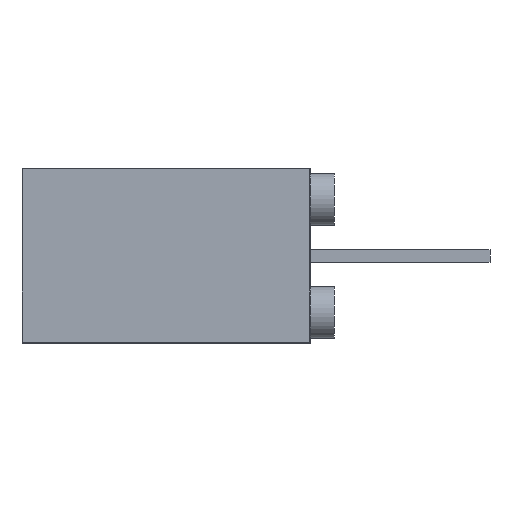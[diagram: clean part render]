
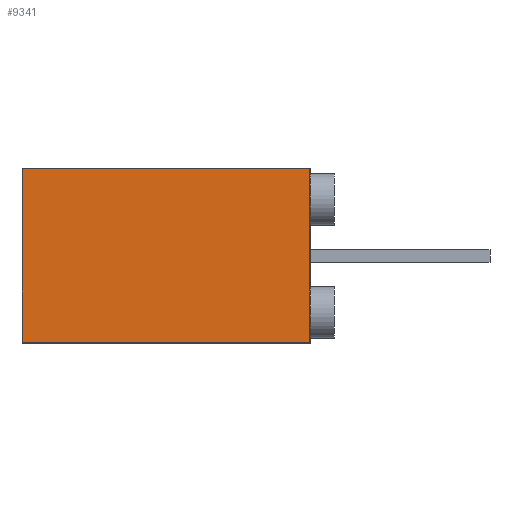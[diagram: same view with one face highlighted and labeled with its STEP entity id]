
A CAD part, left-side view. The second image highlights one B-rep face of the part: STEP entity #9341.
In plain terms, the highlighted planar face has unit normal (-1, 0.004, 0).
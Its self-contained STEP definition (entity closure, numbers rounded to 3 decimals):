
#9274 = VERTEX_POINT ( 'NONE', #35376 ) ;
#9279 = EDGE_CURVE ( 'NONE', #9280, #9299, #35353, .T. ) ;
#9280 = VERTEX_POINT ( 'NONE', #35349 ) ;
#9290 = VERTEX_POINT ( 'NONE', #35397 ) ;
#9299 = VERTEX_POINT ( 'NONE', #35384 ) ;
#9317 = ORIENTED_EDGE ( 'NONE', *, *, #9345, .T. ) ;
#9318 = ORIENTED_EDGE ( 'NONE', *, *, #9330, .T. ) ;
#9319 = ORIENTED_EDGE ( 'NONE', *, *, #9339, .T. ) ;
#9330 = EDGE_CURVE ( 'NONE', #9290, #9274, #35502, .T. ) ;
#9339 = EDGE_CURVE ( 'NONE', #9274, #9280, #35483, .T. ) ;
#9341 = ADVANCED_FACE ( 'NONE', ( #35479 ), #35477, .T. ) ;
#9342 = EDGE_LOOP ( 'NONE', ( #9343, #9317, #9318, #9319 ) ) ;
#9343 = ORIENTED_EDGE ( 'NONE', *, *, #9279, .T. ) ;
#9345 = EDGE_CURVE ( 'NONE', #9299, #9290, #35478, .T. ) ;
#35349 = CARTESIAN_POINT ( 'NONE',  ( -7.523, 6.094, -1.823 ) ) ;
#35350 = DIRECTION ( 'NONE',  ( -0.004, -1., 0. ) ) ;
#35351 = VECTOR ( 'NONE', #35350, 1000. ) ;
#35352 = CARTESIAN_POINT ( 'NONE',  ( -7.523, 6.094, -1.823 ) ) ;
#35353 = LINE ( 'NONE', #35352, #35351 ) ;
#35376 = CARTESIAN_POINT ( 'NONE',  ( -7.523, 6.094, 1.85 ) ) ;
#35384 = CARTESIAN_POINT ( 'NONE',  ( -7.55, 0.002, -1.823 ) ) ;
#35397 = CARTESIAN_POINT ( 'NONE',  ( -7.55, 0.002, 1.85 ) ) ;
#35476 = CARTESIAN_POINT ( 'NONE',  ( -7.55, 0.002, -1.823 ) ) ;
#35477 = PLANE ( 'NONE',  #35539 ) ;
#35478 = LINE ( 'NONE', #35536, #35535 ) ;
#35479 = FACE_OUTER_BOUND ( 'NONE', #9342, .T. ) ;
#35480 = DIRECTION ( 'NONE',  ( 0., 0., -1. ) ) ;
#35481 = VECTOR ( 'NONE', #35480, 1000. ) ;
#35482 = CARTESIAN_POINT ( 'NONE',  ( -7.523, 6.094, -1.823 ) ) ;
#35483 = LINE ( 'NONE', #35482, #35481 ) ;
#35494 = DIRECTION ( 'NONE',  ( 0.004, 1., 0. ) ) ;
#35495 = VECTOR ( 'NONE', #35494, 1000. ) ;
#35496 = CARTESIAN_POINT ( 'NONE',  ( -7.523, 6.094, 1.85 ) ) ;
#35502 = LINE ( 'NONE', #35496, #35495 ) ;
#35534 = DIRECTION ( 'NONE',  ( 0., 0., 1. ) ) ;
#35535 = VECTOR ( 'NONE', #35534, 1000. ) ;
#35536 = CARTESIAN_POINT ( 'NONE',  ( -7.55, 0.002, -1.823 ) ) ;
#35537 = DIRECTION ( 'NONE',  ( -0.004, -1., 0. ) ) ;
#35538 = DIRECTION ( 'NONE',  ( -1., 0.004, 0. ) ) ;
#35539 = AXIS2_PLACEMENT_3D ( 'NONE', #35476, #35538, #35537 ) ;
